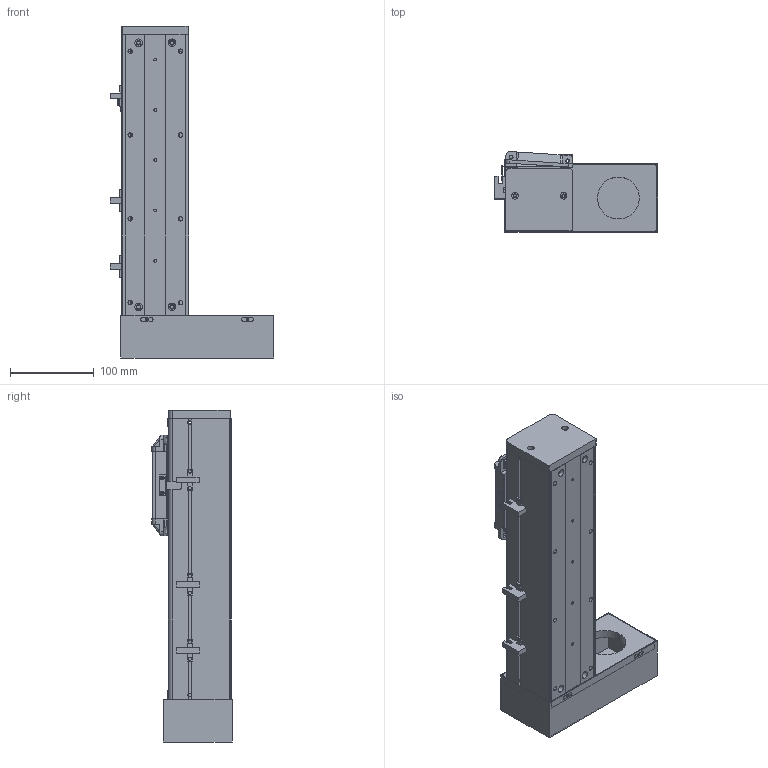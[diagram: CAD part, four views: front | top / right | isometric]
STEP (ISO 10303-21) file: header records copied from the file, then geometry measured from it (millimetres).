
FILE_DESCRIPTION (( 'STEP AP214' ), '1' );
FILE_NAME ('CF80-C-150-FWL.STEP', '2020-01-15T08:26:09', ( '微软用户' ), ( '微软中国' ), 'SwSTEP 2.0', 'SolidWorks 2016', '' );
FILE_SCHEMA (( 'AUTOMOTIVE_DESIGN' ));
Length unit declared in the file: millimetre
Products named in the file (16): 賑雄輸; CF80肮祭謫欶; 詩湍揤啣; CF80詩湍-150; CF80耜啣; 賑雄輸裔啣; CFN80傻嘐隅釱; CF80盓傅釱; EGR15絳寢-150; EGW15CA賑輸; CF80墙板-150; CF80菁釱-150; CF80-C-150-FWL; 嫖萇羲壽; 壽萇羲壽覜茼え; CF80-酘殏萇儂啣
Assembly tree (19 placements, depth 2):
  CF80-C-150-FWL
    CF80菁釱-150
    CF80墙板-150  x2
    EGW15CA賑輸
    EGR15絳寢-150
    CF80盓傅釱
    CFN80傻嘐隅釱
    賑雄輸裔啣
    CF80耜啣
    CF80詩湍-150
    詩湍揤啣  x2
    CF80肮祭謫欶
    賑雄輸
    CF80-酘殏萇儂啣
    壽萇羲壽覜茼え
    嫖萇羲壽  x3
Bounding box: 194.5 x 95.88 x 396 mm (x, y, z)
Volume: 1052733.1 mm3; surface area: 514438.3 mm2
Topology: 19 solids, 19 shells, 832 faces, 2330 edges, 1536 vertices
Faces by surface type: plane 455, cylinder 345, cone 20, bspline 12
Entity records: 26499 total; most frequent: CARTESIAN_POINT 6141, ORIENTED_EDGE 4058, DIRECTION 3985, EDGE_CURVE 2029, AXIS2_PLACEMENT_3D 1354, VERTEX_POINT 1346, LINE 1277, VECTOR 1277
